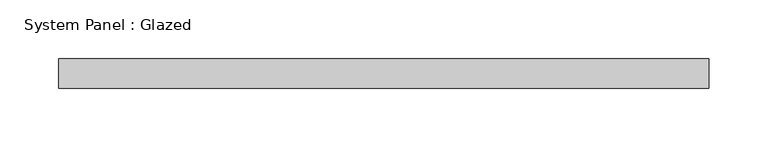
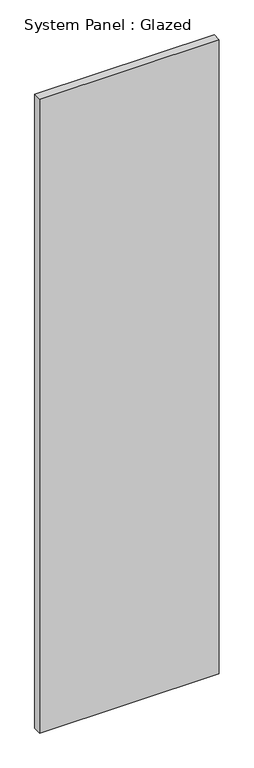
"""IFC4 building model written with IfcOpenShell, lengths in millimetres: plate geometry, System Panel : Glazed."""

import ifcopenshell
import ifcopenshell.guid

model = None  # the IFC model being written
_history = None  # IfcOwnerHistory: only IFC2X3 demands one
_inside = {}  # id of a spatial element -> (the spatial element, [elements in it])
_under = {}  # id of a project, library or spatial element -> (it, [spatial elements below it])
_declared = {}  # id of a project -> (the project, [libraries it declares])
_typed = {}  # id of a type object -> (the type object, [elements of that type])
_made_of = {}  # id of a material, layer set ... -> (it, [elements and type objects made of it])


def new_model(schema):
    """Start an empty IFC model of exactly this schema.

    Asked for "IFC4X3", IfcOpenShell would pick the latest addendum, in which some entities
    have other attributes; the version numbers below select the first issue.
    IFC2X3 requires an IfcOwnerHistory on every rooted entity: one is made here for all.
    """
    global model, _history
    if schema == "IFC4X3":
        model = ifcopenshell.file(schema_version=(4, 3, 0, 0))
    else:
        model = ifcopenshell.file(schema=schema)
    _inside.clear()
    _under.clear()
    _declared.clear()
    _typed.clear()
    _made_of.clear()
    _history = None
    if model.schema == "IFC2X3":
        org = make("IfcOrganization", Name="unknown")
        user = make(
            "IfcPersonAndOrganization",
            ThePerson=make("IfcPerson", FamilyName="unknown"),
            TheOrganization=org,
        )
        app = make(
            "IfcApplication",
            ApplicationDeveloper=org,
            Version="unknown",
            ApplicationFullName="unknown",
            ApplicationIdentifier="unknown",
        )
        _history = make(
            "IfcOwnerHistory",
            OwningUser=user,
            OwningApplication=app,
            ChangeAction="ADDED",
            CreationDate=0,
        )
    return model


def make(cls, **values):
    """One entity of the class cls with the attributes given. An attribute that is None is left unset."""
    return model.create_entity(
        cls, **{name: value for name, value in values.items() if value is not None}
    )


def rooted(cls, **values):
    """An entity with a GlobalId (a new one), such as an element, a storey or a relation."""
    return make(cls, GlobalId=ifcopenshell.guid.new(), OwnerHistory=_history, **values)


def si_unit(unit_type, name, prefix=None):
    """IfcSIUnit, for example si_unit("LENGTHUNIT", "METRE", prefix="MILLI")."""
    return make("IfcSIUnit", UnitType=unit_type, Prefix=prefix, Name=name)


def assignment(units):
    """IfcUnitAssignment: the units of a project."""
    return None if units is None else make("IfcUnitAssignment", Units=units)


def point(xyz):
    """IfcCartesianPoint."""
    return None if xyz is None else make("IfcCartesianPoint", Coordinates=xyz)


def direction(xyz):
    """IfcDirection."""
    return None if xyz is None else make("IfcDirection", DirectionRatios=xyz)


def frame(location, z_axis=None, x_axis=None):
    """IfcAxis2Placement3D, a coordinate frame: its origin and axes. An axis left out is left unset."""
    return make(
        "IfcAxis2Placement3D",
        Location=point(location),
        Axis=direction(z_axis),
        RefDirection=direction(x_axis),
    )


def origin():
    """The frame at (0, 0, 0) with its axes left unset."""
    return frame((0.0, 0.0, 0.0))


def origin_with_axes():
    """The frame at (0, 0, 0) with the z axis (0, 0, 1) and the x axis (1, 0, 0) written out."""
    return frame((0.0, 0.0, 0.0), z_axis=(0.0, 0.0, 1.0), x_axis=(1.0, 0.0, 0.0))


def place(relative_to, where):
    """IfcLocalPlacement: puts the frame where relative to a parent placement (None: the world)."""
    return make(
        "IfcLocalPlacement", PlacementRelTo=relative_to, RelativePlacement=where
    )


def context(
    kind, dimensions, precision=None, world=None, true_north=None, identifier=None
):
    """IfcGeometricRepresentationContext, for example the 3D "Model" context."""
    return make(
        "IfcGeometricRepresentationContext",
        ContextIdentifier=identifier,
        ContextType=kind,
        CoordinateSpaceDimension=dimensions,
        Precision=precision,
        WorldCoordinateSystem=world,
        TrueNorth=true_north,
    )


def project(units=None, contexts=None):
    """IfcProject with its units and contexts."""
    return rooted(
        "IfcProject",
        Name="project",
        RepresentationContexts=contexts,
        UnitsInContext=assignment(units),
    )


def spatial(cls, under=None, at=None, **own):
    """A site, building, storey or space (cls), placed at a placement, below another one or the project."""
    s = rooted(cls, ObjectPlacement=at, **own)
    if under is not None:
        _under.setdefault(under.id(), (under, []))[1].append(s)
    return s


def polyline(points):
    """IfcPolyline through the points."""
    return make("IfcPolyline", Points=[point(p) for p in points])


def outline(outer, holes=None, kind="AREA"):
    """IfcArbitraryClosedProfileDef: a profile drawn as a closed curve; with holes, ...WithVoids."""
    if holes is None:
        return make("IfcArbitraryClosedProfileDef", ProfileType=kind, OuterCurve=outer)
    return make(
        "IfcArbitraryProfileDefWithVoids",
        ProfileType=kind,
        OuterCurve=outer,
        InnerCurves=holes,
    )


def extrude(swept, where, along, depth):
    """IfcExtrudedAreaSolid: the profile swept, set in the frame where, extruded along a direction by depth."""
    return make(
        "IfcExtrudedAreaSolid",
        SweptArea=swept,
        Position=where,
        ExtrudedDirection=direction(along),
        Depth=depth,
    )


def shape(context_of_items, identifier, shape_type, items):
    """IfcShapeRepresentation: the items that make up one representation, for example the "Body"."""
    return make(
        "IfcShapeRepresentation",
        ContextOfItems=context_of_items,
        RepresentationIdentifier=identifier,
        RepresentationType=shape_type,
        Items=items,
    )


def source(mapping_origin, context_of_items, identifier, shape_type, items):
    """IfcRepresentationMap: a shape defined once, which mapped items show again and again."""
    return make(
        "IfcRepresentationMap",
        MappingOrigin=mapping_origin,
        MappedRepresentation=shape(context_of_items, identifier, shape_type, items),
    )


def transform(
    local_origin,
    x_axis=None,
    y_axis=None,
    z_axis=None,
    scale=None,
    scale2=None,
    scale3=None,
    uniform=True,
):
    """IfcCartesianTransformationOperator3D, or its non-uniform kind. x_axis, y_axis, z_axis: its Axis1, 2, 3."""
    if uniform:
        return make(
            "IfcCartesianTransformationOperator3D",
            Axis1=direction(x_axis),
            Axis2=direction(y_axis),
            LocalOrigin=point(local_origin),
            Scale=scale,
            Axis3=direction(z_axis),
        )
    return make(
        "IfcCartesianTransformationOperator3DnonUniform",
        Axis1=direction(x_axis),
        Axis2=direction(y_axis),
        LocalOrigin=point(local_origin),
        Scale=scale,
        Axis3=direction(z_axis),
        Scale2=scale2,
        Scale3=scale3,
    )


def mapped(mapping_source, mapping_target):
    """IfcMappedItem: shows the shape of a source again, moved by a transform."""
    return make(
        "IfcMappedItem", MappingSource=mapping_source, MappingTarget=mapping_target
    )


def made_of(thing, what):
    """Note that an element or type object is made of a material, layer set ...; save() writes the relation."""
    if what is not None:
        _made_of.setdefault(what.id(), (what, []))[1].append(thing)
    return thing


def element(
    cls,
    number,
    at=None,
    inside=None,
    cuts=None,
    type_object=None,
    material=None,
    context=None,
    identifier="Body",
    shape_type=None,
    held_by="IfcProductDefinitionShape",
    body=None,
    shapes=None,
    **own,
):
    """One element of the class cls, such as IfcWall. Its Tag is "e" and its number.

    at: its placement. inside: the storey or other place that contains it. cuts: it is an
    opening in that element (IfcRelVoidsElement). A single representation is given by context,
    identifier, shape_type and body (its items); several are given by shapes. held_by: the class
    of the entity that holds the representations. save() writes the other relations.
    """
    e = rooted(cls, Tag="e%d" % number, ObjectPlacement=at, **own)
    if body is not None:
        shapes = [shape(context, identifier, shape_type, body)]
    if shapes is not None:
        e.Representation = make(held_by, Representations=shapes)
    if inside is not None:
        _inside.setdefault(inside.id(), (inside, []))[1].append(e)
    if cuts is not None:
        rooted(
            "IfcRelVoidsElement", RelatingBuildingElement=cuts, RelatedOpeningElement=e
        )
    if type_object is not None:
        _typed.setdefault(type_object.id(), (type_object, []))[1].append(e)
    return made_of(e, material)


def aggregate(whole, parts):
    """IfcRelAggregates: a whole, such as a stair, and the parts it consists of."""
    return rooted("IfcRelAggregates", RelatingObject=whole, RelatedObjects=parts)


def save(model, path):
    """Write the relations noted so far, then the file.

    IfcRelAggregates (storeys below a building ...), IfcRelContainedInSpatialStructure (elements
    in a storey), IfcRelDefinesByType, IfcRelAssociatesMaterial and IfcRelDeclares: one each for
    every whole, place, type object, material and project.
    """
    for whole, parts in _under.values():
        aggregate(whole, parts)
    for where, things in _inside.values():
        rooted(
            "IfcRelContainedInSpatialStructure",
            RelatedElements=things,
            RelatingStructure=where,
        )
    for kind, things in _typed.values():
        rooted("IfcRelDefinesByType", RelatedObjects=things, RelatingType=kind)
    for what, things in _made_of.values():
        rooted("IfcRelAssociatesMaterial", RelatedObjects=things, RelatingMaterial=what)
    for by, libraries in _declared.values():
        rooted("IfcRelDeclares", RelatingContext=by, RelatedDefinitions=libraries)
    model.write(path)


def system_panel_glazed_08691960(model_context):
    return source(origin(), model_context, "Body", "SweptSolid", [
        extrude(outline(polyline([(277.3870768, -44.45), (-277.3870768, -44.45), (-277.3870768, -19.05), (277.3870768, -19.05), (277.3870768, -44.45)])), origin_with_axes(), (0.0, 0.0, 1.0), 2070.1),
    ])


if __name__ == "__main__":
    model = new_model("IFC4")
    model_context = context("Model", 3, world=origin())
    ifc_project = project(units=[si_unit("LENGTHUNIT", "METRE", prefix="MILLI")], contexts=[model_context])
    site = spatial("IfcSite", under=ifc_project)
    building = spatial("IfcBuilding", under=site)
    placement = place(None, origin())
    system_panel_glazed_shape = system_panel_glazed_08691960(model_context)
    element("IfcPlate", 1, ObjectType="System Panel : Glazed", at=placement, inside=building, context=model_context, shape_type="MappedRepresentation", body=[
        mapped(system_panel_glazed_shape, transform((0.0, 0.0, 0.0), x_axis=(1.0, 0.0, 0.0), y_axis=(0.0, 1.0, 0.0), z_axis=(0.0, 0.0, 1.0))),
    ])
    save(model, "model.ifc")
